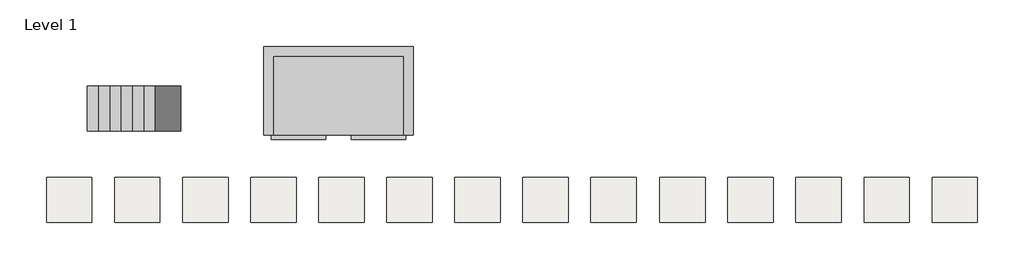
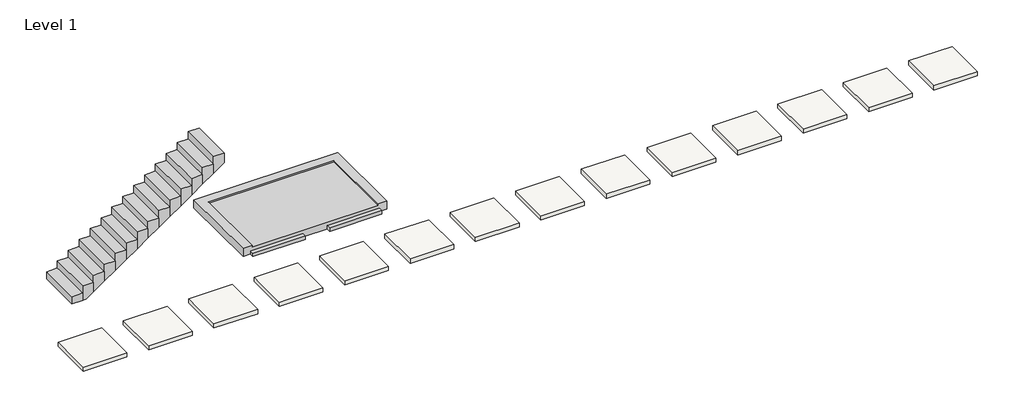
# One storey: 14 slabs, 1 proxy, 1 stair flight.
"""IFC4 building model written with IfcOpenShell, lengths in millimetres."""

import ifcopenshell
import ifcopenshell.guid

model = None  # the IFC model being written
_history = None  # IfcOwnerHistory: only IFC2X3 demands one
_inside = {}  # id of a spatial element -> (the spatial element, [elements in it])
_under = {}  # id of a project, library or spatial element -> (it, [spatial elements below it])
_declared = {}  # id of a project -> (the project, [libraries it declares])
_typed = {}  # id of a type object -> (the type object, [elements of that type])
_made_of = {}  # id of a material, layer set ... -> (it, [elements and type objects made of it])


def new_model(schema):
    """Start an empty IFC model of exactly this schema.

    Asked for "IFC4X3", IfcOpenShell would pick the latest addendum, in which some entities
    have other attributes; the version numbers below select the first issue.
    IFC2X3 requires an IfcOwnerHistory on every rooted entity: one is made here for all.
    """
    global model, _history
    if schema == "IFC4X3":
        model = ifcopenshell.file(schema_version=(4, 3, 0, 0))
    else:
        model = ifcopenshell.file(schema=schema)
    _inside.clear()
    _under.clear()
    _declared.clear()
    _typed.clear()
    _made_of.clear()
    _history = None
    if model.schema == "IFC2X3":
        org = make("IfcOrganization", Name="unknown")
        user = make(
            "IfcPersonAndOrganization",
            ThePerson=make("IfcPerson", FamilyName="unknown"),
            TheOrganization=org,
        )
        app = make(
            "IfcApplication",
            ApplicationDeveloper=org,
            Version="unknown",
            ApplicationFullName="unknown",
            ApplicationIdentifier="unknown",
        )
        _history = make(
            "IfcOwnerHistory",
            OwningUser=user,
            OwningApplication=app,
            ChangeAction="ADDED",
            CreationDate=0,
        )
    return model


def make(cls, **values):
    """One entity of the class cls with the attributes given. An attribute that is None is left unset."""
    return model.create_entity(
        cls, **{name: value for name, value in values.items() if value is not None}
    )


def rooted(cls, **values):
    """An entity with a GlobalId (a new one), such as an element, a storey or a relation."""
    return make(cls, GlobalId=ifcopenshell.guid.new(), OwnerHistory=_history, **values)


def si_unit(unit_type, name, prefix=None):
    """IfcSIUnit, for example si_unit("LENGTHUNIT", "METRE", prefix="MILLI")."""
    return make("IfcSIUnit", UnitType=unit_type, Prefix=prefix, Name=name)


def assignment(units):
    """IfcUnitAssignment: the units of a project."""
    return None if units is None else make("IfcUnitAssignment", Units=units)


def point(xyz):
    """IfcCartesianPoint."""
    return None if xyz is None else make("IfcCartesianPoint", Coordinates=xyz)


def direction(xyz):
    """IfcDirection."""
    return None if xyz is None else make("IfcDirection", DirectionRatios=xyz)


def frame(location, z_axis=None, x_axis=None):
    """IfcAxis2Placement3D, a coordinate frame: its origin and axes. An axis left out is left unset."""
    return make(
        "IfcAxis2Placement3D",
        Location=point(location),
        Axis=direction(z_axis),
        RefDirection=direction(x_axis),
    )


def origin():
    """The frame at (0, 0, 0) with its axes left unset."""
    return frame((0.0, 0.0, 0.0))


def place(relative_to, where):
    """IfcLocalPlacement: puts the frame where relative to a parent placement (None: the world)."""
    return make(
        "IfcLocalPlacement", PlacementRelTo=relative_to, RelativePlacement=where
    )


def context(
    kind, dimensions, precision=None, world=None, true_north=None, identifier=None
):
    """IfcGeometricRepresentationContext, for example the 3D "Model" context."""
    return make(
        "IfcGeometricRepresentationContext",
        ContextIdentifier=identifier,
        ContextType=kind,
        CoordinateSpaceDimension=dimensions,
        Precision=precision,
        WorldCoordinateSystem=world,
        TrueNorth=true_north,
    )


def project(units=None, contexts=None):
    """IfcProject with its units and contexts."""
    return rooted(
        "IfcProject",
        Name="project",
        RepresentationContexts=contexts,
        UnitsInContext=assignment(units),
    )


def spatial(cls, under=None, at=None, **own):
    """A site, building, storey or space (cls), placed at a placement, below another one or the project."""
    s = rooted(cls, ObjectPlacement=at, **own)
    if under is not None:
        _under.setdefault(under.id(), (under, []))[1].append(s)
    return s


def polyline(points):
    """IfcPolyline through the points."""
    return make("IfcPolyline", Points=[point(p) for p in points])


def outline(outer, holes=None, kind="AREA"):
    """IfcArbitraryClosedProfileDef: a profile drawn as a closed curve; with holes, ...WithVoids."""
    if holes is None:
        return make("IfcArbitraryClosedProfileDef", ProfileType=kind, OuterCurve=outer)
    return make(
        "IfcArbitraryProfileDefWithVoids",
        ProfileType=kind,
        OuterCurve=outer,
        InnerCurves=holes,
    )


def extrude(swept, where, along, depth):
    """IfcExtrudedAreaSolid: the profile swept, set in the frame where, extruded along a direction by depth."""
    return make(
        "IfcExtrudedAreaSolid",
        SweptArea=swept,
        Position=where,
        ExtrudedDirection=direction(along),
        Depth=depth,
    )


def faces_of(points, faces, orient=None, outer=None):
    """IfcFace entities. A face is a list of loops; a loop is a list of indices into points, from 0.

    orient and outer hold one flag for each loop. By default every Orientation is true, the
    first loop of a face is its IfcFaceOuterBound and the others are IfcFaceBound.
    """
    made = []
    for i, loops in enumerate(faces):
        bounds = []
        for j, loop in enumerate(loops):
            is_outer = j == 0 if outer is None else outer[i][j]
            bounds.append(
                make(
                    "IfcFaceOuterBound" if is_outer else "IfcFaceBound",
                    Bound=make("IfcPolyLoop", Polygon=[points[k] for k in loop]),
                    Orientation=True if orient is None else orient[i][j],
                )
            )
        made.append(make("IfcFace", Bounds=bounds))
    return made


def faceted_brep(points, faces, orient=None, outer=None, voids=None):
    """IfcFacetedBrep: a solid bounded by flat faces; with voids (closed shells), ...WithVoids."""
    shared = [point(p) for p in points]
    hull = make("IfcClosedShell", CfsFaces=faces_of(shared, faces, orient, outer))
    if voids is None:
        return make("IfcFacetedBrep", Outer=hull)
    return make(
        "IfcFacetedBrepWithVoids",
        Outer=hull,
        Voids=[
            make(cls, CfsFaces=faces_of(shared, fs, o, b)) for cls, fs, o, b in voids
        ],
    )


def shape(context_of_items, identifier, shape_type, items):
    """IfcShapeRepresentation: the items that make up one representation, for example the "Body"."""
    return make(
        "IfcShapeRepresentation",
        ContextOfItems=context_of_items,
        RepresentationIdentifier=identifier,
        RepresentationType=shape_type,
        Items=items,
    )


def source(mapping_origin, context_of_items, identifier, shape_type, items):
    """IfcRepresentationMap: a shape defined once, which mapped items show again and again."""
    return make(
        "IfcRepresentationMap",
        MappingOrigin=mapping_origin,
        MappedRepresentation=shape(context_of_items, identifier, shape_type, items),
    )


def transform(
    local_origin,
    x_axis=None,
    y_axis=None,
    z_axis=None,
    scale=None,
    scale2=None,
    scale3=None,
    uniform=True,
):
    """IfcCartesianTransformationOperator3D, or its non-uniform kind. x_axis, y_axis, z_axis: its Axis1, 2, 3."""
    if uniform:
        return make(
            "IfcCartesianTransformationOperator3D",
            Axis1=direction(x_axis),
            Axis2=direction(y_axis),
            LocalOrigin=point(local_origin),
            Scale=scale,
            Axis3=direction(z_axis),
        )
    return make(
        "IfcCartesianTransformationOperator3DnonUniform",
        Axis1=direction(x_axis),
        Axis2=direction(y_axis),
        LocalOrigin=point(local_origin),
        Scale=scale,
        Axis3=direction(z_axis),
        Scale2=scale2,
        Scale3=scale3,
    )


def mapped(mapping_source, mapping_target):
    """IfcMappedItem: shows the shape of a source again, moved by a transform."""
    return make(
        "IfcMappedItem", MappingSource=mapping_source, MappingTarget=mapping_target
    )


def made_of(thing, what):
    """Note that an element or type object is made of a material, layer set ...; save() writes the relation."""
    if what is not None:
        _made_of.setdefault(what.id(), (what, []))[1].append(thing)
    return thing


def element(
    cls,
    number,
    at=None,
    inside=None,
    cuts=None,
    type_object=None,
    material=None,
    context=None,
    identifier="Body",
    shape_type=None,
    held_by="IfcProductDefinitionShape",
    body=None,
    shapes=None,
    **own,
):
    """One element of the class cls, such as IfcWall. Its Tag is "e" and its number.

    at: its placement. inside: the storey or other place that contains it. cuts: it is an
    opening in that element (IfcRelVoidsElement). A single representation is given by context,
    identifier, shape_type and body (its items); several are given by shapes. held_by: the class
    of the entity that holds the representations. save() writes the other relations.
    """
    e = rooted(cls, Tag="e%d" % number, ObjectPlacement=at, **own)
    if body is not None:
        shapes = [shape(context, identifier, shape_type, body)]
    if shapes is not None:
        e.Representation = make(held_by, Representations=shapes)
    if inside is not None:
        _inside.setdefault(inside.id(), (inside, []))[1].append(e)
    if cuts is not None:
        rooted(
            "IfcRelVoidsElement", RelatingBuildingElement=cuts, RelatedOpeningElement=e
        )
    if type_object is not None:
        _typed.setdefault(type_object.id(), (type_object, []))[1].append(e)
    return made_of(e, material)


def aggregate(whole, parts):
    """IfcRelAggregates: a whole, such as a stair, and the parts it consists of."""
    return rooted("IfcRelAggregates", RelatingObject=whole, RelatedObjects=parts)


def save(model, path):
    """Write the relations noted so far, then the file.

    IfcRelAggregates (storeys below a building ...), IfcRelContainedInSpatialStructure (elements
    in a storey), IfcRelDefinesByType, IfcRelAssociatesMaterial and IfcRelDeclares: one each for
    every whole, place, type object, material and project.
    """
    for whole, parts in _under.values():
        aggregate(whole, parts)
    for where, things in _inside.values():
        rooted(
            "IfcRelContainedInSpatialStructure",
            RelatedElements=things,
            RelatingStructure=where,
        )
    for kind, things in _typed.values():
        rooted("IfcRelDefinesByType", RelatedObjects=things, RelatingType=kind)
    for what, things in _made_of.values():
        rooted("IfcRelAssociatesMaterial", RelatedObjects=things, RelatingMaterial=what)
    for by, libraries in _declared.values():
        rooted("IfcRelDeclares", RelatingContext=by, RelatedDefinitions=libraries)
    model.write(path)


def proxy_300_24_isr_concrete_platform_double_platform_9cdc8692(model_context):
    return source(origin(), model_context, "Body", "Brep", [
        faceted_brep([(60.0, -1800.0, 0.0), (2940.0, -1800.0, 0.0), (2940.0, -60.0, 0.0), (60.0, -60.0, 0.0), (3150.0, 150.0, -165.0), (3150.0, -1800.0, -165.0), (2980.0, -1800.0, -165.0), (2980.0, -1900.0, -165.0), (1780.0, -1900.0, -165.0), (1780.0, -1800.0, -165.0), (1220.0, -1800.0, -165.0), (1220.0, -1900.0, -165.0), (20.0, -1900.0, -165.0), (20.0, -1800.0, -165.0), (-150.0, -1800.0, -165.0), (-150.0, 150.0, -165.0), (-150.0, 150.0, 30.0), (3150.0, 150.0, 30.0), (-150.0, -1800.0, 30.0), (20.0, -1800.0, -85.0), (1220.0, -1800.0, -85.0), (1780.0, -1800.0, -85.0), (2980.0, -1800.0, -85.0), (3150.0, -1800.0, 30.0), (2940.0, -1800.0, 30.0), (60.0, -1800.0, 30.0), (1780.0, -1900.0, -85.0), (2980.0, -1900.0, -85.0), (1220.0, -1900.0, -85.0), (20.0, -1900.0, -85.0), (60.0, -60.0, 30.0), (2940.0, -60.0, 30.0)], [[[0, 1, 2, 3]], [[4, 5, 6, 7, 8, 9, 10, 11, 12, 13, 14, 15]], [[4, 15, 16, 17]], [[16, 15, 14, 18]], [[18, 14, 13, 19, 20, 10, 9, 21, 22, 6, 5, 23, 24, 1, 0, 25]], [[23, 5, 4, 17]], [[21, 26, 27, 22]], [[26, 21, 9, 8]], [[27, 26, 8, 7]], [[22, 27, 7, 6]], [[28, 20, 19, 29]], [[20, 28, 11, 10]], [[29, 19, 13, 12]], [[28, 29, 12, 11]], [[25, 0, 3, 30]], [[18, 25, 30, 31, 24, 23, 17, 16]], [[30, 3, 2, 31]], [[24, 31, 2, 1]]]),
    ])


model = new_model("IFC4")

# Units and contexts
model_context = context("Model", 3, world=origin())
ifc_project = project(units=[si_unit("LENGTHUNIT", "METRE", prefix="MILLI")], contexts=[model_context])

# Site, building, storey
site = spatial("IfcSite", under=ifc_project)
building = spatial("IfcBuilding", under=site)
storey = spatial("IfcBuildingStorey", under=building, Name="Level 1", Elevation=0.0)

# Proxy
placement = place(None, origin())
proxy_300_24_isr_concrete_platform_double_platform_shape = proxy_300_24_isr_concrete_platform_double_platform_9cdc8692(model_context)
element("IfcBuildingElementProxy", 1, Name="300_24_ISR_concrete_platform : double platform", ObjectType="300_24_ISR_concrete_platform : double platform", at=placement, inside=storey, context=model_context, shape_type="MappedRepresentation", body=[
    mapped(proxy_300_24_isr_concrete_platform_double_platform_shape, transform((-652.5441241, 2827.5413771, 0.0), x_axis=(1.0, 0.0, 0.0), y_axis=(0.0, 1.0, 0.0), z_axis=(0.0, 0.0, 1.0))),
])

# Slabs
element("IfcSlab", 2, ObjectType="Generic 100mm", at=placement, inside=storey, context=model_context, shape_type="SweptSolid", body=[
    extrude(outline(polyline([(-3088.5953778, 89.4387512), (-3088.5953778, -910.5612488), (-4088.5953778, -910.5612488), (-4088.5953778, 89.4387512), (-3088.5953778, 89.4387512)])), frame((0.0, 0.0, -100.0), z_axis=(0.0, 0.0, 1.0), x_axis=(1.0, 0.0, 0.0)), (0.0, 0.0, 1.0), 100.0),
])
element("IfcSlab", 3, ObjectType="Generic 100mm", at=placement, inside=storey, context=model_context, shape_type="SweptSolid", body=[
    extrude(outline(polyline([(-1588.5953778, 89.4387512), (-1588.5953778, -910.5612488), (-2588.5953778, -910.5612488), (-2588.5953778, 89.4387512), (-1588.5953778, 89.4387512)])), frame((0.0, 0.0, -100.0), z_axis=(0.0, 0.0, 1.0), x_axis=(1.0, 0.0, 0.0)), (0.0, 0.0, 1.0), 100.0),
])
element("IfcSlab", 4, ObjectType="Generic 100mm", at=placement, inside=storey, context=model_context, shape_type="SweptSolid", body=[
    extrude(outline(polyline([(-88.5953778, 89.4387512), (-88.5953778, -910.5612488), (-1088.5953778, -910.5612488), (-1088.5953778, 89.4387512), (-88.5953778, 89.4387512)])), frame((0.0, 0.0, -100.0), z_axis=(0.0, 0.0, 1.0), x_axis=(1.0, 0.0, 0.0)), (0.0, 0.0, 1.0), 100.0),
])
element("IfcSlab", 5, ObjectType="Generic 100mm", at=placement, inside=storey, context=model_context, shape_type="SweptSolid", body=[
    extrude(outline(polyline([(1411.4046222, 89.4387512), (1411.4046222, -910.5612488), (411.4046222, -910.5612488), (411.4046222, 89.4387512), (1411.4046222, 89.4387512)])), frame((0.0, 0.0, -100.0), z_axis=(0.0, 0.0, 1.0), x_axis=(1.0, 0.0, 0.0)), (0.0, 0.0, 1.0), 100.0),
])
element("IfcSlab", 6, ObjectType="Generic 100mm", at=placement, inside=storey, context=model_context, shape_type="SweptSolid", body=[
    extrude(outline(polyline([(2911.4046222, 89.4387512), (2911.4046222, -910.5612488), (1911.4046222, -910.5612488), (1911.4046222, 89.4387512), (2911.4046222, 89.4387512)])), frame((0.0, 0.0, -100.0), z_axis=(0.0, 0.0, 1.0), x_axis=(1.0, 0.0, 0.0)), (0.0, 0.0, 1.0), 100.0),
])
element("IfcSlab", 7, ObjectType="Generic 100mm", at=placement, inside=storey, context=model_context, shape_type="SweptSolid", body=[
    extrude(outline(polyline([(4411.4046222, 89.4387512), (4411.4046222, -910.5612488), (3411.4046222, -910.5612488), (3411.4046222, 89.4387512), (4411.4046222, 89.4387512)])), frame((0.0, 0.0, -100.0), z_axis=(0.0, 0.0, 1.0), x_axis=(1.0, 0.0, 0.0)), (0.0, 0.0, 1.0), 100.0),
])
element("IfcSlab", 8, ObjectType="Generic 100mm", at=placement, inside=storey, context=model_context, shape_type="SweptSolid", body=[
    extrude(outline(polyline([(5911.4046222, 89.4387512), (5911.4046222, -910.5612488), (4911.4046222, -910.5612488), (4911.4046222, 89.4387512), (5911.4046222, 89.4387512)])), frame((0.0, 0.0, -100.0), z_axis=(0.0, 0.0, 1.0), x_axis=(1.0, 0.0, 0.0)), (0.0, 0.0, 1.0), 100.0),
])
element("IfcSlab", 9, ObjectType="Generic 100mm", at=placement, inside=storey, context=model_context, shape_type="SweptSolid", body=[
    extrude(outline(polyline([(7411.4046222, 89.4387512), (7411.4046222, -910.5612488), (6411.4046222, -910.5612488), (6411.4046222, 89.4387512), (7411.4046222, 89.4387512)])), frame((0.0, 0.0, -100.0), z_axis=(0.0, 0.0, 1.0), x_axis=(1.0, 0.0, 0.0)), (0.0, 0.0, 1.0), 100.0),
])
element("IfcSlab", 10, ObjectType="Generic 100mm", at=placement, inside=storey, context=model_context, shape_type="SweptSolid", body=[
    extrude(outline(polyline([(-4588.5953778, 89.4387512), (-4588.5953778, -910.5612488), (-5588.5953778, -910.5612488), (-5588.5953778, 89.4387512), (-4588.5953778, 89.4387512)])), frame((0.0, 0.0, -100.0), z_axis=(0.0, 0.0, 1.0), x_axis=(1.0, 0.0, 0.0)), (0.0, 0.0, 1.0), 100.0),
])
element("IfcSlab", 11, ObjectType="Generic 100mm", at=placement, inside=storey, context=model_context, shape_type="SweptSolid", body=[
    extrude(outline(polyline([(8931.4046222, 89.4387512), (8931.4046222, -910.5612488), (7931.4046222, -910.5612488), (7931.4046222, 89.4387512), (8931.4046222, 89.4387512)])), frame((0.0, 0.0, -100.0), z_axis=(0.0, 0.0, 1.0), x_axis=(1.0, 0.0, 0.0)), (0.0, 0.0, 1.0), 100.0),
])
element("IfcSlab", 12, ObjectType="Generic 100mm", at=placement, inside=storey, context=model_context, shape_type="SweptSolid", body=[
    extrude(outline(polyline([(10431.4046222, 89.4387512), (10431.4046222, -910.5612488), (9431.4046222, -910.5612488), (9431.4046222, 89.4387512), (10431.4046222, 89.4387512)])), frame((0.0, 0.0, -100.0), z_axis=(0.0, 0.0, 1.0), x_axis=(1.0, 0.0, 0.0)), (0.0, 0.0, 1.0), 100.0),
])
element("IfcSlab", 13, ObjectType="Generic 100mm", at=placement, inside=storey, context=model_context, shape_type="SweptSolid", body=[
    extrude(outline(polyline([(11931.4046222, 89.4387512), (11931.4046222, -910.5612488), (10931.4046222, -910.5612488), (10931.4046222, 89.4387512), (11931.4046222, 89.4387512)])), frame((0.0, 0.0, -100.0), z_axis=(0.0, 0.0, 1.0), x_axis=(1.0, 0.0, 0.0)), (0.0, 0.0, 1.0), 100.0),
])
element("IfcSlab", 14, ObjectType="Generic 100mm", at=placement, inside=storey, context=model_context, shape_type="SweptSolid", body=[
    extrude(outline(polyline([(13431.4046222, 89.4387512), (13431.4046222, -910.5612488), (12431.4046222, -910.5612488), (12431.4046222, 89.4387512), (13431.4046222, 89.4387512)])), frame((0.0, 0.0, -100.0), z_axis=(0.0, 0.0, 1.0), x_axis=(1.0, 0.0, 0.0)), (0.0, 0.0, 1.0), 100.0),
])
element("IfcSlab", 15, ObjectType="Generic 100mm", at=placement, inside=storey, context=model_context, shape_type="SweptSolid", body=[
    extrude(outline(polyline([(14931.4046222, 89.4387512), (14931.4046222, -910.5612488), (13931.4046222, -910.5612488), (13931.4046222, 89.4387512), (14931.4046222, 89.4387512)])), frame((0.0, 0.0, -100.0), z_axis=(0.0, 0.0, 1.0), x_axis=(1.0, 0.0, 0.0)), (0.0, 0.0, 1.0), 100.0),
])

# Stair flight
element("IfcStairFlight", 16, ObjectType="190mm Depth", at=placement, inside=storey, context=model_context, shape_type="Brep", body=[
    faceted_brep([(-4438.5953778, 2107.5413771, 173.9130435), (-4688.5953778, 2107.5413771, 173.9130435), (-4688.5953778, 1107.5413771, 173.9130435), (-4438.5953778, 1107.5413771, 173.9130435), (-4438.5953778, 2107.5413771, 0.0), (-4688.5953778, 2107.5413771, 0.0), (-4688.5953778, 1107.5413771, 0.0), (-4438.5953778, 1107.5413771, 0.0), (-4188.5953778, 2107.5413771, 347.826087), (-4438.5953778, 2107.5413771, 347.826087), (-4438.5953778, 1107.5413771, 347.826087), (-4188.5953778, 1107.5413771, 347.826087), (-4188.5953778, 2107.5413771, 116.3742706), (-4355.8833918, 2107.5413771, 0.0), (-4355.8833918, 1107.5413771, 0.0), (-4188.5953778, 1107.5413771, 116.3742706), (-3938.5953778, 2107.5413771, 521.7391304), (-4188.5953778, 2107.5413771, 521.7391304), (-4188.5953778, 1107.5413771, 521.7391304), (-3938.5953778, 1107.5413771, 521.7391304), (-3938.5953778, 2107.5413771, 290.2873141), (-3938.5953778, 1107.5413771, 290.2873141), (-3688.5953778, 2107.5413771, 695.6521739), (-3938.5953778, 2107.5413771, 695.6521739), (-3938.5953778, 1107.5413771, 695.6521739), (-3688.5953778, 1107.5413771, 695.6521739), (-3688.5953778, 2107.5413771, 464.2003576), (-3688.5953778, 1107.5413771, 464.2003576), (-3438.5953778, 2107.5413771, 869.5652174), (-3688.5953778, 2107.5413771, 869.5652174), (-3688.5953778, 1107.5413771, 869.5652174), (-3438.5953778, 1107.5413771, 869.5652174), (-3438.5953778, 2107.5413771, 638.113401), (-3438.5953778, 1107.5413771, 638.113401), (-3188.5953778, 2107.5413771, 1043.4782609), (-3438.5953778, 2107.5413771, 1043.4782609), (-3438.5953778, 1107.5413771, 1043.4782609), (-3188.5953778, 1107.5413771, 1043.4782609), (-3188.5953778, 2107.5413771, 812.0264445), (-3188.5953778, 1107.5413771, 812.0264445), (-2938.5953778, 2107.5413771, 1217.3913043), (-3188.5953778, 2107.5413771, 1217.3913043), (-3188.5953778, 1107.5413771, 1217.3913043), (-2938.5953778, 1107.5413771, 1217.3913043), (-2938.5953778, 2107.5413771, 985.939488), (-2938.5953778, 1107.5413771, 985.939488), (-2688.5953778, 2107.5413771, 1391.3043478), (-2938.5953778, 2107.5413771, 1391.3043478), (-2938.5953778, 1107.5413771, 1391.3043478), (-2688.5953778, 1107.5413771, 1391.3043478), (-2688.5953778, 2107.5413771, 1159.8525315), (-2688.5953778, 1107.5413771, 1159.8525315), (-2438.5953778, 2107.5413771, 1565.2173913), (-2688.5953778, 2107.5413771, 1565.2173913), (-2688.5953778, 1107.5413771, 1565.2173913), (-2438.5953778, 1107.5413771, 1565.2173913), (-2438.5953778, 2107.5413771, 1333.765575), (-2438.5953778, 1107.5413771, 1333.765575), (-2188.5953778, 2107.5413771, 1739.1304348), (-2438.5953778, 2107.5413771, 1739.1304348), (-2438.5953778, 1107.5413771, 1739.1304348), (-2188.5953778, 1107.5413771, 1739.1304348), (-2188.5953778, 2107.5413771, 1507.6786184), (-2188.5953778, 1107.5413771, 1507.6786184), (-1938.5953778, 2107.5413771, 1913.0434783), (-2188.5953778, 2107.5413771, 1913.0434783), (-2188.5953778, 1107.5413771, 1913.0434783), (-1938.5953778, 1107.5413771, 1913.0434783), (-1938.5953778, 2107.5413771, 1681.5916619), (-1938.5953778, 1107.5413771, 1681.5916619), (-1688.5953778, 2107.5413771, 2086.9565217), (-1938.5953778, 2107.5413771, 2086.9565217), (-1938.5953778, 1107.5413771, 2086.9565217), (-1688.5953778, 1107.5413771, 2086.9565217), (-1688.5953778, 2107.5413771, 1855.5047054), (-1688.5953778, 1107.5413771, 1855.5047054), (-1438.5953778, 2107.5413771, 2260.8695652), (-1688.5953778, 2107.5413771, 2260.8695652), (-1688.5953778, 1107.5413771, 2260.8695652), (-1438.5953778, 1107.5413771, 2260.8695652), (-1438.5953778, 2107.5413771, 2029.4177489), (-1438.5953778, 1107.5413771, 2029.4177489), (-1188.5953778, 2107.5413771, 2203.3307924), (-1188.5953778, 1107.5413771, 2203.3307924), (-1188.5953778, 2107.5413771, 2434.7826087), (-1438.5953778, 2107.5413771, 2434.7826087), (-1438.5953778, 1107.5413771, 2434.7826087), (-1188.5953778, 1107.5413771, 2434.7826087)], [[[0, 1, 2, 3]], [[1, 0, 4, 5]], [[2, 1, 5, 6]], [[3, 2, 6, 7]], [[8, 9, 10, 11]], [[4, 0, 9, 8, 12, 13]], [[0, 3, 10, 9]], [[3, 7, 14, 15, 11, 10]], [[16, 17, 18, 19]], [[17, 16, 20, 12, 8]], [[8, 11, 18, 17]], [[19, 18, 11, 15, 21]], [[22, 23, 24, 25]], [[23, 22, 26, 20, 16]], [[16, 19, 24, 23]], [[25, 24, 19, 21, 27]], [[28, 29, 30, 31]], [[29, 28, 32, 26, 22]], [[22, 25, 30, 29]], [[31, 30, 25, 27, 33]], [[34, 35, 36, 37]], [[35, 34, 38, 32, 28]], [[28, 31, 36, 35]], [[37, 36, 31, 33, 39]], [[40, 41, 42, 43]], [[41, 40, 44, 38, 34]], [[34, 37, 42, 41]], [[43, 42, 37, 39, 45]], [[46, 47, 48, 49]], [[47, 46, 50, 44, 40]], [[40, 43, 48, 47]], [[49, 48, 43, 45, 51]], [[52, 53, 54, 55]], [[53, 52, 56, 50, 46]], [[46, 49, 54, 53]], [[55, 54, 49, 51, 57]], [[58, 59, 60, 61]], [[59, 58, 62, 56, 52]], [[52, 55, 60, 59]], [[61, 60, 55, 57, 63]], [[64, 65, 66, 67]], [[65, 64, 68, 62, 58]], [[58, 61, 66, 65]], [[67, 66, 61, 63, 69]], [[70, 71, 72, 73]], [[71, 70, 74, 68, 64]], [[64, 67, 72, 71]], [[73, 72, 67, 69, 75]], [[76, 77, 78, 79]], [[77, 76, 80, 74, 70]], [[70, 73, 78, 77]], [[79, 78, 73, 75, 81]], [[5, 4, 13, 14, 7, 6]], [[14, 13, 12, 20, 26, 32, 38, 44, 50, 56, 62, 68, 74, 80, 82, 83, 81, 75, 69, 63, 57, 51, 45, 39, 33, 27, 21, 15]], [[84, 85, 86, 87]], [[85, 84, 82, 80, 76]], [[76, 79, 86, 85]], [[87, 86, 79, 81, 83]], [[84, 87, 83, 82]]]),
])

save(model, "model.ifc")
